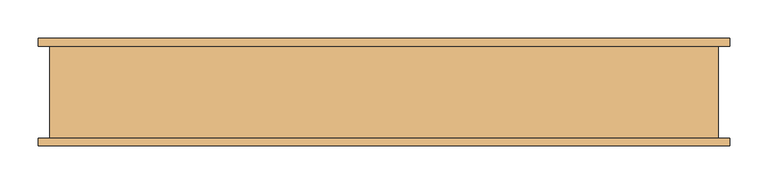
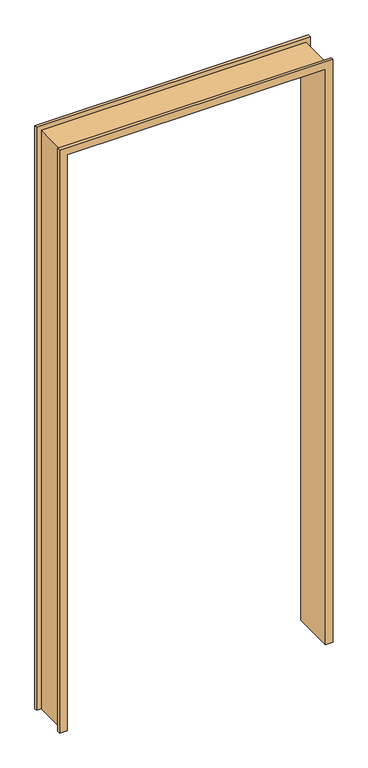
"""IFC4 building model written with IfcOpenShell, lengths in millimetres: door geometry, 営_三方枠 : S1_850*2000."""

from ifc_helpers import new_model, si_unit, origin, place, context, project, spatial, faceted_brep, source, transform, mapped, element, save


def door_14d6dc4f(model_context):
    return source(origin(), model_context, "Body", "Brep", [
        faceted_brep([(425.0, -70.0, 0.0), (425.0, 70.0, 0.0), (450.0, 70.0, 0.0), (450.0, 60.0, 0.0), (435.0, 60.0, 0.0), (435.0, -60.0, 0.0), (450.0, -60.0, 0.0), (450.0, -70.0, 0.0), (425.0, -70.0, 2000.0), (425.0, 70.0, 2000.0), (-425.0, 70.0, 2000.0), (-425.0, 70.0, 0.0), (-450.0, 70.0, 0.0), (-450.0, 70.0, 2025.0), (450.0, 70.0, 2025.0), (450.0, 60.0, 2025.0), (-450.0, 60.0, 2025.0), (-450.0, 60.0, 0.0), (-435.0, 60.0, 0.0), (-435.0, 60.0, 2010.0), (435.0, 60.0, 2010.0), (435.0, -60.0, 2010.0), (-435.0, -60.0, 2010.0), (-435.0, -60.0, 0.0), (-450.0, -60.0, 0.0), (-450.0, -60.0, 2025.0), (450.0, -60.0, 2025.0), (450.0, -70.0, 2025.0), (-450.0, -70.0, 2025.0), (-450.0, -70.0, 0.0), (-425.0, -70.0, 0.0), (-425.0, -70.0, 2000.0)], [[[0, 1, 2, 3, 4, 5, 6, 7]], [[1, 0, 8, 9]], [[2, 1, 9, 10, 11, 12, 13, 14]], [[3, 2, 14, 15]], [[4, 3, 15, 16, 17, 18, 19, 20]], [[5, 4, 20, 21]], [[6, 5, 21, 22, 23, 24, 25, 26]], [[7, 6, 26, 27]], [[0, 7, 27, 28, 29, 30, 31, 8]], [[10, 31, 30, 11]], [[30, 29, 24, 23, 18, 17, 12, 11]], [[16, 13, 12, 17]], [[28, 25, 24, 29]], [[22, 19, 18, 23]], [[9, 8, 31, 10]], [[15, 14, 13, 16]], [[21, 20, 19, 22]], [[27, 26, 25, 28]]]),
    ])


if __name__ == "__main__":
    model = new_model("IFC4")
    model_context = context("Model", 3, world=origin())
    ifc_project = project(units=[si_unit("LENGTHUNIT", "METRE", prefix="MILLI")], contexts=[model_context])
    site = spatial("IfcSite", under=ifc_project)
    building = spatial("IfcBuilding", under=site)
    placement = place(None, origin())
    door_shape = door_14d6dc4f(model_context)
    element("IfcDoor", 1, ObjectType="営_三方枠 : S1_850*2000", at=placement, inside=building, context=model_context, shape_type="MappedRepresentation", body=[
        mapped(door_shape, transform((0.0, 0.0, 0.0), x_axis=(1.0, 0.0, 0.0), y_axis=(0.0, 1.0, 0.0), z_axis=(0.0, 0.0, 1.0))),
    ])
    save(model, "model.ifc")
